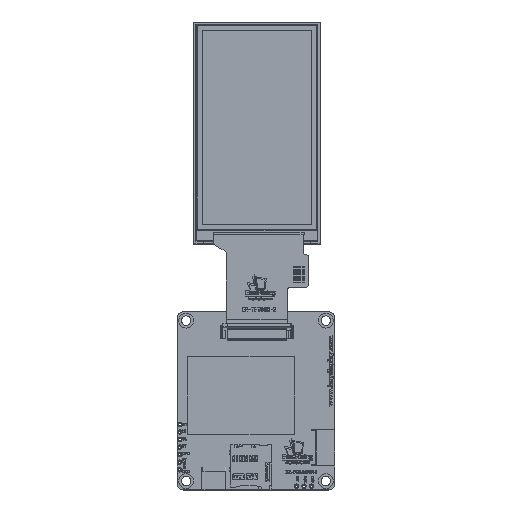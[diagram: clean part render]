
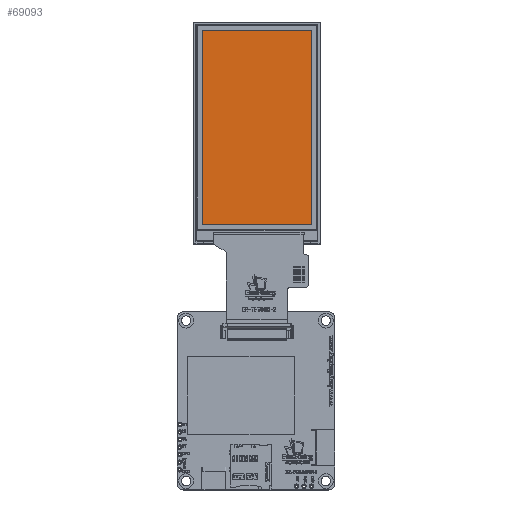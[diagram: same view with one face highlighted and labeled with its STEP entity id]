
A CAD part, top view. The second image highlights one B-rep face of the part: STEP entity #69093.
In plain terms, the highlighted planar face has unit normal (0, 0, 1).
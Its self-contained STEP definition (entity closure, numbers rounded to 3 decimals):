
#13480 = CARTESIAN_POINT ( 'NONE',  ( -18.36, 0., 2.1 ) ) ;
#18822 = VECTOR ( 'NONE', #129928, 1000. ) ;
#19923 = DIRECTION ( 'NONE',  ( 0., -1., 0. ) ) ;
#21547 = CARTESIAN_POINT ( 'NONE',  ( 0., 0., 2.1 ) ) ;
#43251 = ORIENTED_EDGE ( 'NONE', *, *, #58897, .F. ) ;
#51693 = FACE_OUTER_BOUND ( 'NONE', #237815, .T. ) ;
#58897 = EDGE_CURVE ( 'NONE', #108479, #207247, #210125, .T. ) ;
#69093 = ADVANCED_FACE ( 'NONE', ( #51693 ), #174593, .T. ) ;
#69177 = VERTEX_POINT ( 'NONE', #166603 ) ;
#73541 = LINE ( 'NONE', #13480, #18822 ) ;
#79970 = LINE ( 'NONE', #140162, #121564 ) ;
#84473 = EDGE_CURVE ( 'NONE', #100822, #69177, #222709, .T. ) ;
#92388 = CARTESIAN_POINT ( 'NONE',  ( 0., 34.405, 2.1 ) ) ;
#97338 = VECTOR ( 'NONE', #182167, 1000. ) ;
#100822 = VERTEX_POINT ( 'NONE', #133991 ) ;
#106923 = DIRECTION ( 'NONE',  ( 1., 0., 0. ) ) ;
#108479 = VERTEX_POINT ( 'NONE', #212369 ) ;
#121564 = VECTOR ( 'NONE', #19923, 1000. ) ;
#129928 = DIRECTION ( 'NONE',  ( 0., 1., 0. ) ) ;
#133991 = CARTESIAN_POINT ( 'NONE',  ( 18.36, -30.875, 2.1 ) ) ;
#140162 = CARTESIAN_POINT ( 'NONE',  ( 18.36, 0., 2.1 ) ) ;
#147534 = AXIS2_PLACEMENT_3D ( 'NONE', #21547, #220279, #237284 ) ;
#166603 = CARTESIAN_POINT ( 'NONE',  ( -18.36, -30.875, 2.1 ) ) ;
#174593 = PLANE ( 'NONE',  #147534 ) ;
#178736 = ORIENTED_EDGE ( 'NONE', *, *, #84473, .F. ) ;
#182167 = DIRECTION ( 'NONE',  ( -1., 0., 0. ) ) ;
#185721 = ORIENTED_EDGE ( 'NONE', *, *, #216390, .F. ) ;
#204281 = CARTESIAN_POINT ( 'NONE',  ( 0., -30.875, 2.1 ) ) ;
#207247 = VERTEX_POINT ( 'NONE', #226876 ) ;
#210125 = LINE ( 'NONE', #92388, #254753 ) ;
#212369 = CARTESIAN_POINT ( 'NONE',  ( -18.36, 34.405, 2.1 ) ) ;
#216390 = EDGE_CURVE ( 'NONE', #207247, #100822, #79970, .T. ) ;
#217072 = EDGE_CURVE ( 'NONE', #69177, #108479, #73541, .T. ) ;
#220279 = DIRECTION ( 'NONE',  ( 0., 0., 1. ) ) ;
#222709 = LINE ( 'NONE', #204281, #97338 ) ;
#226876 = CARTESIAN_POINT ( 'NONE',  ( 18.36, 34.405, 2.1 ) ) ;
#229072 = ORIENTED_EDGE ( 'NONE', *, *, #217072, .F. ) ;
#237284 = DIRECTION ( 'NONE',  ( 1., 0., 0. ) ) ;
#237815 = EDGE_LOOP ( 'NONE', ( #229072, #178736, #185721, #43251 ) ) ;
#254753 = VECTOR ( 'NONE', #106923, 1000. ) ;
